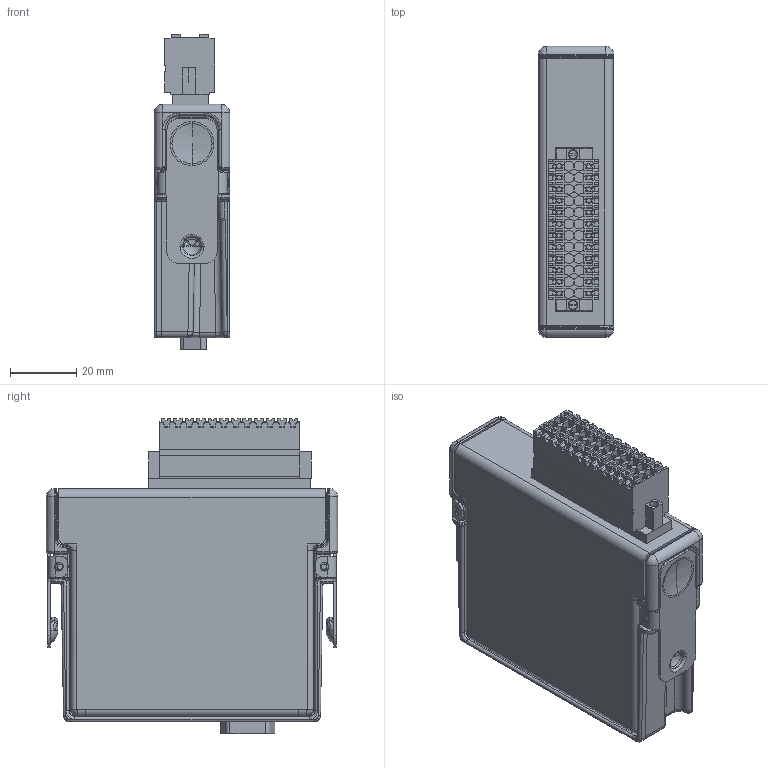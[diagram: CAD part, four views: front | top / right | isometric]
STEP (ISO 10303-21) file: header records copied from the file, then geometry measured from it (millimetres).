
FILE_DESCRIPTION((''),'2;1');
FILE_NAME('CU_NI-9235_9236','2018-01-10T',('dkendric'),(''),'CREO PARAMETRIC BY PTC INC, 2015380','CREO PARAMETRIC BY PTC INC, 2015380','');
FILE_SCHEMA(('CONFIG_CONTROL_DESIGN'));
Products named in the file (1): CU_NI-9235_9236
Bounding box: 22.86 x 88.11 x 95.39 mm (x, y, z)
Volume: 53943.2 mm3; surface area: 51675.4 mm2
Topology: 10 solids, 10 shells, 2598 faces, 6847 edges, 4248 vertices
Faces by surface type: plane 1426, cylinder 676, bspline 365, torus 60, sphere 39, cone 26, extrusion 6
Entity records: 99301 total; most frequent: CARTESIAN_POINT 38315, ORIENTED_EDGE 13550, DIRECTION 11449, EDGE_CURVE 6775, VERTEX_POINT 4286, VECTOR 4151, LINE 4145, AXIS2_PLACEMENT_3D 3649
